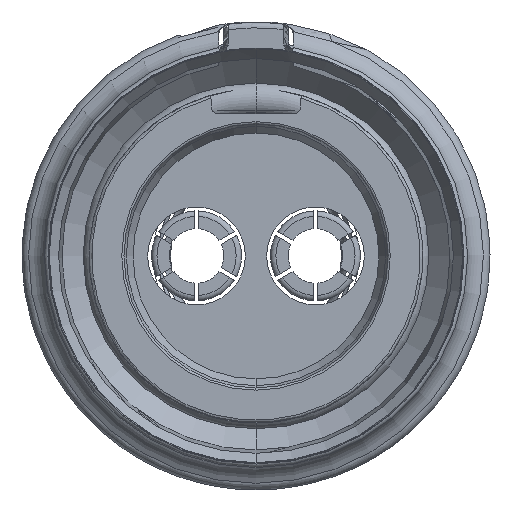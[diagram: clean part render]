
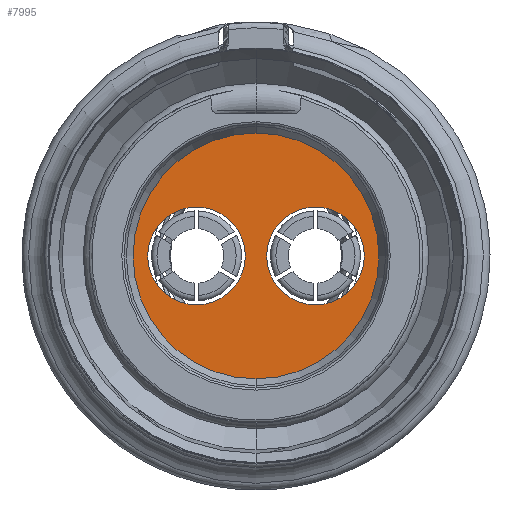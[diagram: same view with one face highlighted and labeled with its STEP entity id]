
A CAD part, front view. The second image highlights one B-rep face of the part: STEP entity #7995.
In plain terms, the highlighted planar face has unit normal (0, 1, 0).
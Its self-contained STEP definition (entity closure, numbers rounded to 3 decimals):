
#7930=CARTESIAN_POINT('',(0.,50.307,0.));
#7931=DIRECTION('',(0.,-1.,0.));
#7932=DIRECTION('',(0.,0.,-1.));
#7933=AXIS2_PLACEMENT_3D('',#7930,#7931,#7932);
#7935=CARTESIAN_POINT('',(0.,50.307,0.));
#7936=DIRECTION('',(0.,-1.,0.));
#7937=DIRECTION('',(0.,0.,1.));
#7938=AXIS2_PLACEMENT_3D('',#7935,#7936,#7937);
#7940=CARTESIAN_POINT('',(5.45,50.307,0.));
#7941=DIRECTION('',(0.,1.,0.));
#7942=DIRECTION('',(-1.,0.,0.));
#7943=AXIS2_PLACEMENT_3D('',#7940,#7941,#7942);
#7945=CARTESIAN_POINT('',(5.45,50.307,0.));
#7946=DIRECTION('',(0.,1.,0.));
#7947=DIRECTION('',(1.,0.,0.));
#7948=AXIS2_PLACEMENT_3D('',#7945,#7946,#7947);
#7950=CARTESIAN_POINT('',(-5.45,50.307,0.));
#7951=DIRECTION('',(0.,1.,0.));
#7952=DIRECTION('',(1.,0.,0.));
#7953=AXIS2_PLACEMENT_3D('',#7950,#7951,#7952);
#7955=CARTESIAN_POINT('',(-5.45,50.307,0.));
#7956=DIRECTION('',(0.,1.,0.));
#7957=DIRECTION('',(-1.,0.,0.));
#7958=AXIS2_PLACEMENT_3D('',#7955,#7956,#7957);
#7960=CARTESIAN_POINT('',(0.,50.307,11.266));
#7961=CARTESIAN_POINT('',(0.,50.307,-11.266));
#7962=VERTEX_POINT('',#7960);
#7963=VERTEX_POINT('',#7961);
#7964=CARTESIAN_POINT('',(0.975,50.307,0.));
#7965=CARTESIAN_POINT('',(9.925,50.307,0.));
#7966=VERTEX_POINT('',#7964);
#7967=VERTEX_POINT('',#7965);
#7968=CARTESIAN_POINT('',(-0.975,50.307,0.));
#7969=CARTESIAN_POINT('',(-9.925,50.307,0.));
#7970=VERTEX_POINT('',#7968);
#7971=VERTEX_POINT('',#7969);
#7972=CARTESIAN_POINT('',(0.,50.307,0.));
#7973=DIRECTION('',(0.,-1.,0.));
#7974=DIRECTION('',(0.,0.,1.));
#7975=AXIS2_PLACEMENT_3D('',#7972,#7973,#7974);
#7976=PLANE('',#7975);
#7978=ORIENTED_EDGE('',*,*,#7977,.T.);
#7980=ORIENTED_EDGE('',*,*,#7979,.T.);
#7981=EDGE_LOOP('',(#7978,#7980));
#7982=FACE_OUTER_BOUND('',#7981,.F.);
#7984=ORIENTED_EDGE('',*,*,#7983,.T.);
#7986=ORIENTED_EDGE('',*,*,#7985,.T.);
#7987=EDGE_LOOP('',(#7984,#7986));
#7988=FACE_BOUND('',#7987,.F.);
#7990=ORIENTED_EDGE('',*,*,#7989,.T.);
#7992=ORIENTED_EDGE('',*,*,#7991,.T.);
#7993=EDGE_LOOP('',(#7990,#7992));
#7994=FACE_BOUND('',#7993,.F.);
#7934=CIRCLE('',#7933,11.266);
#7939=CIRCLE('',#7938,11.266);
#7944=CIRCLE('',#7943,4.475);
#7949=CIRCLE('',#7948,4.475);
#7954=CIRCLE('',#7953,4.475);
#7959=CIRCLE('',#7958,4.475);
#7977=EDGE_CURVE('',#7963,#7962,#7934,.T.);
#7979=EDGE_CURVE('',#7962,#7963,#7939,.T.);
#7983=EDGE_CURVE('',#7966,#7967,#7944,.T.);
#7985=EDGE_CURVE('',#7967,#7966,#7949,.T.);
#7989=EDGE_CURVE('',#7970,#7971,#7954,.T.);
#7991=EDGE_CURVE('',#7971,#7970,#7959,.T.);
#7995=ADVANCED_FACE('',(#7982,#7988,#7994),#7976,.F.);
